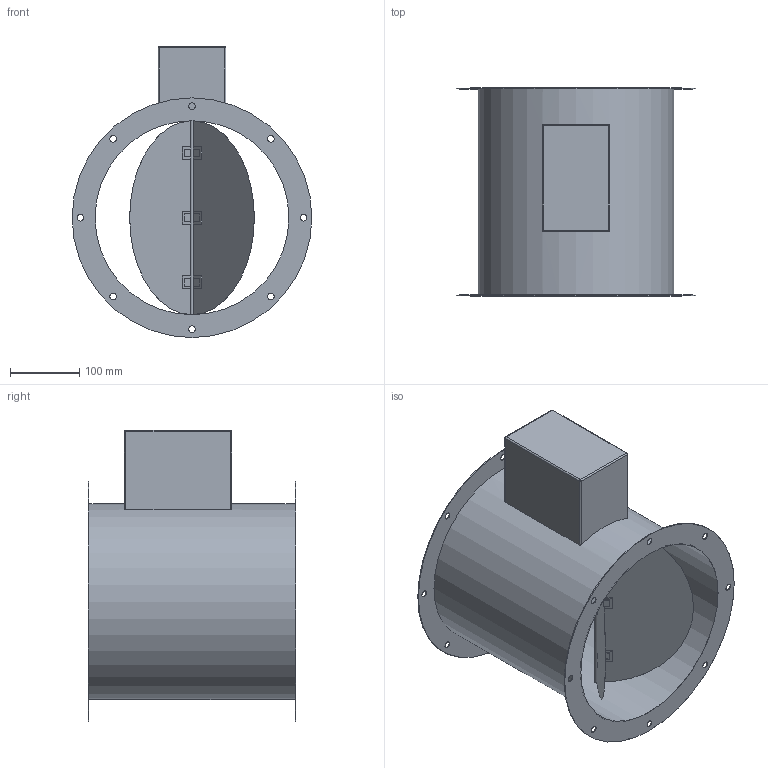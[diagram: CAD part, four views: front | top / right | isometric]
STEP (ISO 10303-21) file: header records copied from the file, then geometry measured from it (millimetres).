
FILE_DESCRIPTION(/* description */ (''),/* implementation_level */ '2;1');
FILE_NAME(/* name */ 'Z:\Output\RVM_280-02577-001.stp',/* time_stamp */ '2020-06-26T09:53:02+02:00',/* author */ ('engineering1'),/* organization */ (''),/* preprocessor_version */ 'ST-DEVELOPER v17.2',/* originating_system */ 'Autodesk Inventor 2019',/* authorisation */ '');
FILE_SCHEMA (('AUTOMOTIVE_DESIGN { 1 0 10303 214 3 1 1 }'));
Length unit declared in the file: millimetre
Products named in the file (1): RVM-1
Bounding box: 346 x 300.02 x 420.25 mm (x, y, z)
Volume: 2079273.4 mm3; surface area: 838300.2 mm2
Topology: 1 solids, 1 shells, 108 faces, 279 edges, 178 vertices
Faces by surface type: plane 73, cylinder 31, sphere 4
Full cylindrical faces by diameter (mm): 7 x1, 9.5 x16, 280 x1, 282.5 x1, 346 x2
Entity records: 3460 total; most frequent: CARTESIAN_POINT 684, ORIENTED_EDGE 558, DIRECTION 549, EDGE_CURVE 279, LINE 199, VECTOR 199, VERTEX_POINT 178, AXIS2_PLACEMENT_3D 175
